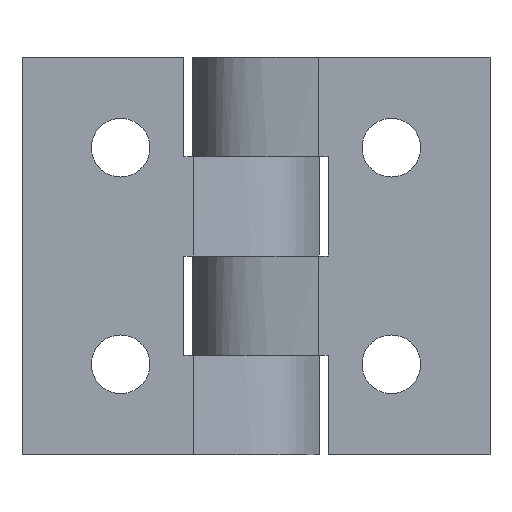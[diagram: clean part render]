
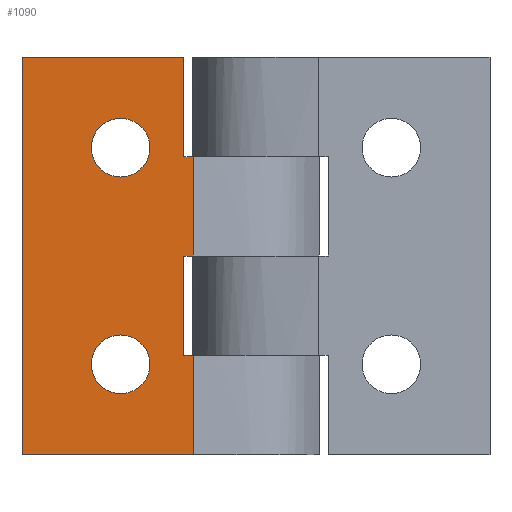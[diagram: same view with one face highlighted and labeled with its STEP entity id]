
A CAD part, front view. The second image highlights one B-rep face of the part: STEP entity #1090.
In plain terms, the highlighted planar face has unit normal (0, -1, 0).
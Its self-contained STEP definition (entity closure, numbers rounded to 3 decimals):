
#27 = ORIENTED_EDGE ( 'NONE', *, *, #1170, .T. ) ;
#28 = DIRECTION ( 'NONE',  ( 0., 0., -1. ) ) ;
#47 = EDGE_CURVE ( 'NONE', #827, #866, #401, .T. ) ;
#49 = EDGE_CURVE ( 'NONE', #284, #726, #1912, .T. ) ;
#55 = DIRECTION ( 'NONE',  ( 0., 0., -1. ) ) ;
#56 = EDGE_CURVE ( 'NONE', #1452, #827, #630, .T. ) ;
#61 = VECTOR ( 'NONE', #1456, 1000. ) ;
#65 = VERTEX_POINT ( 'NONE', #2085 ) ;
#74 = PLANE ( 'NONE',  #825 ) ;
#87 = DIRECTION ( 'NONE',  ( 0., 1., 0. ) ) ;
#122 = CARTESIAN_POINT ( 'NONE',  ( -9.79, -4.372, 56. ) ) ;
#144 = VECTOR ( 'NONE', #774, 1000. ) ;
#152 = VERTEX_POINT ( 'NONE', #1023 ) ;
#172 = CARTESIAN_POINT ( 'NONE',  ( -1.718, -4.372, 44. ) ) ;
#193 = CARTESIAN_POINT ( 'NONE',  ( -2.79, -4.372, 44. ) ) ;
#203 = CARTESIAN_POINT ( 'NONE',  ( -1.718, -4.372, 66. ) ) ;
#220 = DIRECTION ( 'NONE',  ( 1., 0., 0. ) ) ;
#240 = CARTESIAN_POINT ( 'NONE',  ( -20.718, -4.372, 66. ) ) ;
#247 = CIRCLE ( 'NONE', #289, 3.25 ) ;
#254 = CARTESIAN_POINT ( 'NONE',  ( -2.79, -4.372, 44. ) ) ;
#263 = CARTESIAN_POINT ( 'NONE',  ( -1.718, -4.372, 66. ) ) ;
#270 = ORIENTED_EDGE ( 'NONE', *, *, #47, .F. ) ;
#271 = ORIENTED_EDGE ( 'NONE', *, *, #548, .F. ) ;
#284 = VERTEX_POINT ( 'NONE', #533 ) ;
#289 = AXIS2_PLACEMENT_3D ( 'NONE', #122, #2057, #1828 ) ;
#290 = ORIENTED_EDGE ( 'NONE', *, *, #49, .F. ) ;
#293 = CARTESIAN_POINT ( 'NONE',  ( -9.79, -4.372, 32. ) ) ;
#331 = EDGE_CURVE ( 'NONE', #1676, #1452, #478, .T. ) ;
#340 = DIRECTION ( 'NONE',  ( 1., 0., 0. ) ) ;
#376 = CARTESIAN_POINT ( 'NONE',  ( -6.54, -4.372, 56. ) ) ;
#382 = EDGE_CURVE ( 'NONE', #978, #1657, #1212, .T. ) ;
#389 = ORIENTED_EDGE ( 'NONE', *, *, #382, .F. ) ;
#397 = ORIENTED_EDGE ( 'NONE', *, *, #1905, .T. ) ;
#398 = VERTEX_POINT ( 'NONE', #1377 ) ;
#401 = LINE ( 'NONE', #193, #1605 ) ;
#430 = CARTESIAN_POINT ( 'NONE',  ( 12.21, -4.372, 33. ) ) ;
#437 = FACE_BOUND ( 'NONE', #1877, .T. ) ;
#452 = LINE ( 'NONE', #240, #2086 ) ;
#478 = LINE ( 'NONE', #263, #1004 ) ;
#480 = VECTOR ( 'NONE', #220, 1000. ) ;
#533 = CARTESIAN_POINT ( 'NONE',  ( -1.718, -4.372, 33. ) ) ;
#540 = EDGE_LOOP ( 'NONE', ( #290, #271, #270, #1224, #2014, #1086, #389, #905, #397, #766 ) ) ;
#548 = EDGE_CURVE ( 'NONE', #866, #284, #1066, .T. ) ;
#555 = FACE_BOUND ( 'NONE', #1776, .T. ) ;
#570 = CARTESIAN_POINT ( 'NONE',  ( 12.21, -4.372, 55. ) ) ;
#592 = CARTESIAN_POINT ( 'NONE',  ( -2.79, -4.372, 33. ) ) ;
#630 = LINE ( 'NONE', #1240, #1534 ) ;
#684 = DIRECTION ( 'NONE',  ( 1., 0., 0. ) ) ;
#697 = EDGE_CURVE ( 'NONE', #1657, #1676, #791, .T. ) ;
#712 = EDGE_CURVE ( 'NONE', #1473, #152, #1013, .T. ) ;
#721 = FACE_OUTER_BOUND ( 'NONE', #540, .T. ) ;
#726 = VERTEX_POINT ( 'NONE', #1740 ) ;
#740 = DIRECTION ( 'NONE',  ( -1., 0., 0. ) ) ;
#758 = CARTESIAN_POINT ( 'NONE',  ( -1.718, -4.372, 55. ) ) ;
#766 = ORIENTED_EDGE ( 'NONE', *, *, #1194, .T. ) ;
#774 = DIRECTION ( 'NONE',  ( 0., 0., -1. ) ) ;
#791 = LINE ( 'NONE', #570, #1270 ) ;
#801 = VERTEX_POINT ( 'NONE', #1351 ) ;
#815 = ORIENTED_EDGE ( 'NONE', *, *, #1630, .T. ) ;
#825 = AXIS2_PLACEMENT_3D ( 'NONE', #1782, #1552, #1328 ) ;
#827 = VERTEX_POINT ( 'NONE', #254 ) ;
#858 = LINE ( 'NONE', #203, #994 ) ;
#866 = VERTEX_POINT ( 'NONE', #592 ) ;
#902 = CARTESIAN_POINT ( 'NONE',  ( -1.718, -4.372, 22. ) ) ;
#905 = ORIENTED_EDGE ( 'NONE', *, *, #1622, .F. ) ;
#955 = DIRECTION ( 'NONE',  ( 0., 1., 0. ) ) ;
#978 = VERTEX_POINT ( 'NONE', #1588 ) ;
#985 = CARTESIAN_POINT ( 'NONE',  ( -2.79, -4.372, 66. ) ) ;
#994 = VECTOR ( 'NONE', #2142, 1000. ) ;
#1004 = VECTOR ( 'NONE', #55, 1000. ) ;
#1013 = CIRCLE ( 'NONE', #1487, 3.25 ) ;
#1015 = DIRECTION ( 'NONE',  ( -1., 0., 0. ) ) ;
#1023 = CARTESIAN_POINT ( 'NONE',  ( -6.54, -4.372, 32. ) ) ;
#1024 = CARTESIAN_POINT ( 'NONE',  ( -2.79, -4.372, 55. ) ) ;
#1048 = VECTOR ( 'NONE', #684, 1000. ) ;
#1054 = AXIS2_PLACEMENT_3D ( 'NONE', #1926, #1465, #1250 ) ;
#1066 = LINE ( 'NONE', #430, #480 ) ;
#1086 = ORIENTED_EDGE ( 'NONE', *, *, #697, .F. ) ;
#1090 = ADVANCED_FACE ( 'NONE', ( #555, #437, #721 ), #74, .F. ) ;
#1120 = LINE ( 'NONE', #902, #1048 ) ;
#1170 = EDGE_CURVE ( 'NONE', #65, #1445, #1489, .T. ) ;
#1177 = CARTESIAN_POINT ( 'NONE',  ( -9.79, -4.372, 56. ) ) ;
#1194 = EDGE_CURVE ( 'NONE', #398, #726, #1120, .T. ) ;
#1212 = LINE ( 'NONE', #985, #144 ) ;
#1224 = ORIENTED_EDGE ( 'NONE', *, *, #56, .F. ) ;
#1240 = CARTESIAN_POINT ( 'NONE',  ( 12.21, -4.372, 44. ) ) ;
#1250 = DIRECTION ( 'NONE',  ( -1., 0., 0. ) ) ;
#1270 = VECTOR ( 'NONE', #340, 1000. ) ;
#1314 = ORIENTED_EDGE ( 'NONE', *, *, #1767, .T. ) ;
#1328 = DIRECTION ( 'NONE',  ( -1., 0., 0. ) ) ;
#1351 = CARTESIAN_POINT ( 'NONE',  ( -20.718, -4.372, 66. ) ) ;
#1377 = CARTESIAN_POINT ( 'NONE',  ( -20.718, -4.372, 22. ) ) ;
#1398 = CIRCLE ( 'NONE', #1054, 3.25 ) ;
#1445 = VERTEX_POINT ( 'NONE', #376 ) ;
#1452 = VERTEX_POINT ( 'NONE', #172 ) ;
#1456 = DIRECTION ( 'NONE',  ( 0., 0., -1. ) ) ;
#1465 = DIRECTION ( 'NONE',  ( 0., 1., 0. ) ) ;
#1473 = VERTEX_POINT ( 'NONE', #1831 ) ;
#1487 = AXIS2_PLACEMENT_3D ( 'NONE', #293, #87, #2023 ) ;
#1489 = CIRCLE ( 'NONE', #1728, 3.25 ) ;
#1534 = VECTOR ( 'NONE', #1015, 1000. ) ;
#1552 = DIRECTION ( 'NONE',  ( 0., 1., 0. ) ) ;
#1588 = CARTESIAN_POINT ( 'NONE',  ( -2.79, -4.372, 66. ) ) ;
#1605 = VECTOR ( 'NONE', #2132, 1000. ) ;
#1622 = EDGE_CURVE ( 'NONE', #801, #978, #858, .T. ) ;
#1630 = EDGE_CURVE ( 'NONE', #152, #1473, #1398, .T. ) ;
#1657 = VERTEX_POINT ( 'NONE', #1024 ) ;
#1676 = VERTEX_POINT ( 'NONE', #758 ) ;
#1681 = CARTESIAN_POINT ( 'NONE',  ( -1.718, -4.372, 66. ) ) ;
#1687 = ORIENTED_EDGE ( 'NONE', *, *, #712, .T. ) ;
#1728 = AXIS2_PLACEMENT_3D ( 'NONE', #1177, #955, #740 ) ;
#1740 = CARTESIAN_POINT ( 'NONE',  ( -1.718, -4.372, 22. ) ) ;
#1767 = EDGE_CURVE ( 'NONE', #1445, #65, #247, .T. ) ;
#1776 = EDGE_LOOP ( 'NONE', ( #27, #1314 ) ) ;
#1782 = CARTESIAN_POINT ( 'NONE',  ( -1.718, -4.372, 66. ) ) ;
#1828 = DIRECTION ( 'NONE',  ( -1., 0., 0. ) ) ;
#1831 = CARTESIAN_POINT ( 'NONE',  ( -13.04, -4.372, 32. ) ) ;
#1877 = EDGE_LOOP ( 'NONE', ( #1687, #815 ) ) ;
#1905 = EDGE_CURVE ( 'NONE', #801, #398, #452, .T. ) ;
#1912 = LINE ( 'NONE', #1681, #61 ) ;
#1926 = CARTESIAN_POINT ( 'NONE',  ( -9.79, -4.372, 32. ) ) ;
#2014 = ORIENTED_EDGE ( 'NONE', *, *, #331, .F. ) ;
#2023 = DIRECTION ( 'NONE',  ( -1., 0., 0. ) ) ;
#2057 = DIRECTION ( 'NONE',  ( 0., 1., 0. ) ) ;
#2085 = CARTESIAN_POINT ( 'NONE',  ( -13.04, -4.372, 56. ) ) ;
#2086 = VECTOR ( 'NONE', #28, 1000. ) ;
#2132 = DIRECTION ( 'NONE',  ( 0., 0., -1. ) ) ;
#2142 = DIRECTION ( 'NONE',  ( 1., 0., 0. ) ) ;
